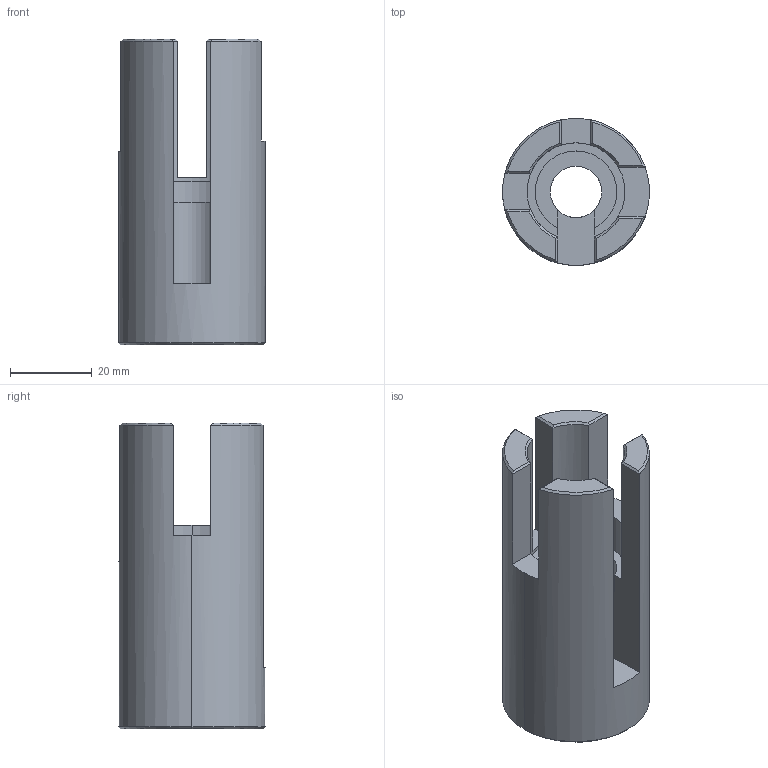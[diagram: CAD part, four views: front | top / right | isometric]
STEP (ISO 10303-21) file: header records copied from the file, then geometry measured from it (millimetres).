
FILE_DESCRIPTION(('CATIA V5 STEP Exchange'),'2;1');
FILE_NAME('C:\Users\hh\Desktop\阀体涂润滑脂治具\AGZ108 VDC阀体治具\pdf+stp\AGZ108.01_V1.stp','2024-10-31T06:26:05+00:00',('none'),('none'),'CATIA Version 5 Release 21 GA (IN-10)','CATIA V5 STEP AP214','none');
FILE_SCHEMA(('AUTOMOTIVE_DESIGN { 1 0 10303 214 1 1 1 1 }'));
Length unit declared in the file: millimetre
Products named in the file (1): AGZ108.01_V1
Bounding box: 36 x 36 x 75 mm (x, y, z)
Volume: 41446.9 mm3; surface area: 14348.3 mm2
Topology: 1 solids, 1 shells, 50 faces, 126 edges, 78 vertices
Faces by surface type: plane 28, cylinder 12, cone 10
Entity records: 1438 total; most frequent: CARTESIAN_POINT 293, ORIENTED_EDGE 252, DIRECTION 190, EDGE_CURVE 126, AXIS2_PLACEMENT_3D 91, VERTEX_POINT 78, VECTOR 60, LINE 60
